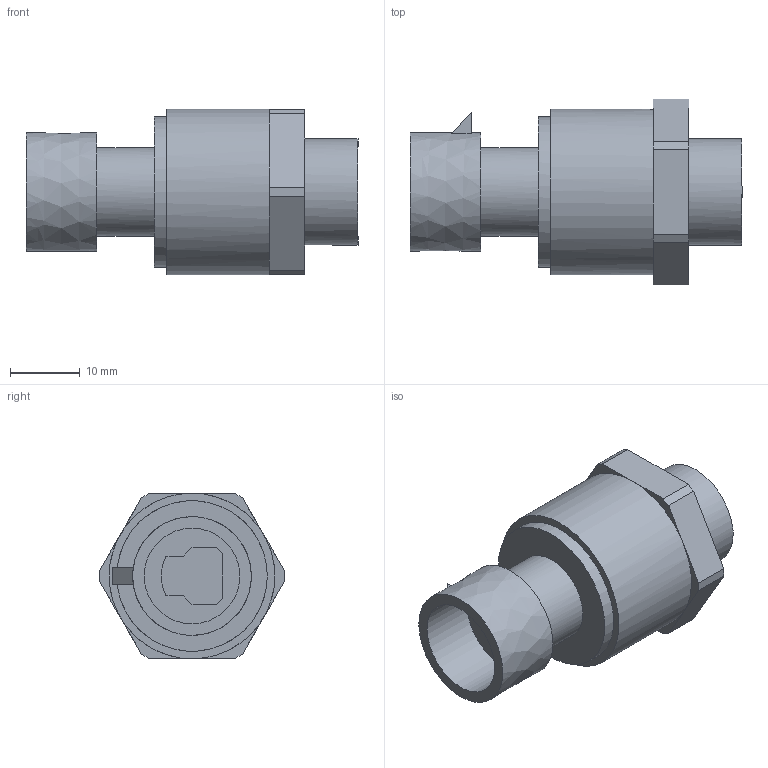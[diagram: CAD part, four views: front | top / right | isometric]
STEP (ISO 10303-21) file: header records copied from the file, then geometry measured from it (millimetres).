
FILE_DESCRIPTION(('CAx-IF Rec.Pracs.---Model Styling and Organization---1.5---2016-08-15','CAx-IF Rec.Pracs.---Geometric and Assembly Validation Properties---4.4---2016-08-17','CAx-IF Rec.Pracs.---User Defined Attributes---1.5---2016-08-15','CAx-IF Rec.Pracs.---External References---2.1---2005-01-19'),'2;1');
FILE_NAME('MCS-500C.stp','2019-10-21T11:57:46',('Unspecified'),('Unspecified'),'CAD Exchanger 3.7.0 (cadexchanger.com)','Unspecified','');
FILE_SCHEMA(('AUTOMOTIVE_DESIGN { 1 0 10303 214 1 1 1 1 }'));
Length unit declared in the file: millimetre
Products named in the file (1): 68
Bounding box: 47.62 x 26.67 x 23.75 mm (x, y, z)
Volume: 11676.5 mm3; surface area: 5091.6 mm2
Topology: 1 solids, 1 shells, 52 faces, 130 edges, 89 vertices
Faces by surface type: bspline 52
Entity records: 2954 total; most frequent: CARTESIAN_POINT 1777, ORIENTED_EDGE 260, EDGE_CURVE 130, B_SPLINE_CURVE_WITH_KNOTS 91, VERTEX_POINT 89, FACE_BOUND 61, EDGE_LOOP 61, PRESENTATION_STYLE_ASSIGNMENT 53
